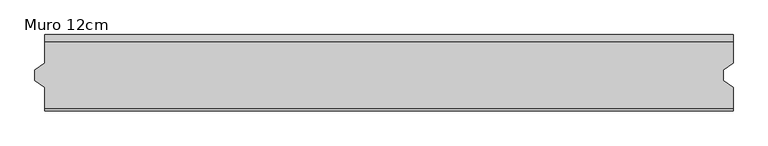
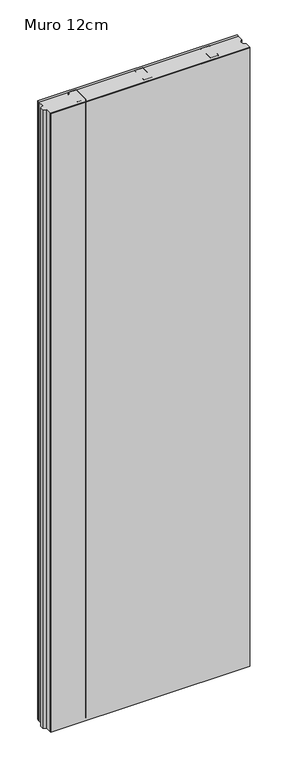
"""IFC4 building model written with IfcOpenShell, lengths in millimetres: plate geometry, Steelfoam Exterior : Muro 12cm."""

from ifc_helpers import new_model, si_unit, point, frame_2d, origin, origin_with_axes, place, context, project, spatial, polyline, circle_curve, trimmed, segment, composite_curve, outline, extrude, source, transform, mapped, element, save


def muro_12cm_a0bc951b(model_context):
    return source(origin(), model_context, "Body", "SweptSolid", [
        extrude(outline(polyline([(610.0, 0.0), (-610.0, 0.0), (-610.0, 12.0), (610.0, 12.0), (610.0, 0.0)])), origin_with_axes(), (0.0, 0.0, 1.0), 4000.0),
        extrude(outline(polyline([(610.0, -120.0), (610.0, -123.0), (-610.0, -123.0), (-610.0, -120.0), (610.0, -120.0)])), origin_with_axes(), (0.0, 0.0, 1.0), 4000.0),
        extrude(outline(polyline([(610.0, -120.0), (-610.0, -120.0), (-610.0, -81.6434349), (-627.6333408, -69.2964367), (-627.6333408, -50.7035633), (-610.0, -38.3565651), (-610.0, 0.0), (-432.4225297, 0.0), (-432.4225297, -0.8), (-381.6225297, -0.8), (-381.6225297, 0.0), (-26.4150776, 0.0), (-26.4150776, -0.8), (24.3849224, -0.8), (24.3849224, 0.0), (379.6603819, 0.0), (379.6603819, -0.8), (430.4603819, -0.8), (430.4603819, 0.0), (610.0, 0.0), (610.0, -38.3565651), (592.3666592, -50.7035633), (592.3666592, -69.2964367), (610.0, -81.6434349), (610.0, -120.0)])), origin_with_axes(), (0.0, 0.0, 1.0), 4000.0),
        extrude(outline(composite_curve([segment(trimmed(circle_curve(frame_2d((428.4603819, -99.6)), 2.0), [point((430.4603819, -99.6))], [point((428.4603819, -101.6))], False, "CARTESIAN"), True, "CONTINUOUS"), segment(polyline([(428.4603819, -101.6), (381.6603819, -101.6)]), True, "CONTINUOUS"), segment(trimmed(circle_curve(frame_2d((381.6603819, -99.6)), 2.0), [point((381.6603819, -101.6))], [point((379.6603819, -99.6))], False, "CARTESIAN"), True, "CONTINUOUS"), segment(polyline([(379.6603819, -99.6), (379.6603819, -2.0)]), True, "CONTINUOUS"), segment(trimmed(circle_curve(frame_2d((381.6603819, -2.0)), 2.0), [point((379.6603819, -2.0))], [point((381.6603819, 0.0))], False, "CARTESIAN"), True, "CONTINUOUS"), segment(polyline([(381.6603819, 0.0), (428.4603819, 0.0)]), True, "CONTINUOUS"), segment(trimmed(circle_curve(frame_2d((428.4603819, -2.0)), 2.0), [point((428.4603819, 0.0))], [point((430.4603819, -2.0))], False, "CARTESIAN"), True, "CONTINUOUS"), segment(polyline([(430.4603819, -2.0), (430.4603819, -15.0), (429.6603819, -15.0), (429.6603819, -2.0)]), True, "CONTINUOUS"), segment(trimmed(circle_curve(frame_2d((428.3603819, -2.0)), 1.3), [point((429.6603819, -2.0))], [point((428.3603819, -0.7))], True, "CARTESIAN"), True, "CONTINUOUS"), segment(polyline([(428.3603819, -0.7), (381.6603819, -0.7)]), True, "CONTINUOUS"), segment(trimmed(circle_curve(frame_2d((381.6603819, -2.0)), 1.3), [point((381.6603819, -0.7))], [point((380.3603819, -2.0))], True, "CARTESIAN"), True, "CONTINUOUS"), segment(polyline([(380.3603819, -2.0), (380.3603819, -99.6)]), True, "CONTINUOUS"), segment(trimmed(circle_curve(frame_2d((381.6603819, -99.6)), 1.3), [point((380.3603819, -99.6))], [point((381.6603819, -100.9))], True, "CARTESIAN"), True, "CONTINUOUS"), segment(polyline([(381.6603819, -100.9), (428.3603819, -100.9)]), True, "CONTINUOUS"), segment(trimmed(circle_curve(frame_2d((428.3603819, -99.6)), 1.3), [point((428.3603819, -100.9))], [point((429.6603819, -99.6))], True, "CARTESIAN"), True, "CONTINUOUS"), segment(polyline([(429.6603819, -99.6), (429.6603819, -86.6), (430.4603819, -86.6), (430.4603819, -99.6)]), True, "CONTINUOUS")], self_intersect=False)), origin_with_axes(), (0.0, 0.0, 1.0), 4000.0),
        extrude(outline(composite_curve([segment(polyline([(-26.4150776, -99.6), (-26.4150776, -86.6), (-25.6150776, -86.6), (-25.6150776, -99.6)]), True, "CONTINUOUS"), segment(trimmed(circle_curve(frame_2d((-24.3150776, -99.6)), 1.3), [point((-25.6150776, -99.6))], [point((-24.3150776, -100.9))], True, "CARTESIAN"), True, "CONTINUOUS"), segment(polyline([(-24.3150776, -100.9), (22.3849224, -100.9)]), True, "CONTINUOUS"), segment(trimmed(circle_curve(frame_2d((22.3849224, -99.6)), 1.3), [point((22.3849224, -100.9))], [point((23.6849224, -99.6))], True, "CARTESIAN"), True, "CONTINUOUS"), segment(polyline([(23.6849224, -99.6), (23.6849224, -2.0)]), True, "CONTINUOUS"), segment(trimmed(circle_curve(frame_2d((22.3849224, -2.0)), 1.3), [point((23.6849224, -2.0))], [point((22.3849224, -0.7))], True, "CARTESIAN"), True, "CONTINUOUS"), segment(polyline([(22.3849224, -0.7), (-24.3150776, -0.7)]), True, "CONTINUOUS"), segment(trimmed(circle_curve(frame_2d((-24.3150776, -2.0)), 1.3), [point((-24.3150776, -0.7))], [point((-25.6150776, -2.0))], True, "CARTESIAN"), True, "CONTINUOUS"), segment(polyline([(-25.6150776, -2.0), (-25.6150776, -15.0), (-26.4150776, -15.0), (-26.4150776, -2.0)]), True, "CONTINUOUS"), segment(trimmed(circle_curve(frame_2d((-24.4150776, -2.0)), 2.0), [point((-26.4150776, -2.0))], [point((-24.4150776, 0.0))], False, "CARTESIAN"), True, "CONTINUOUS"), segment(polyline([(-24.4150776, 0.0), (22.3849224, 0.0)]), True, "CONTINUOUS"), segment(trimmed(circle_curve(frame_2d((22.3849224, -2.0)), 2.0), [point((22.3849224, 0.0))], [point((24.3849224, -2.0))], False, "CARTESIAN"), True, "CONTINUOUS"), segment(polyline([(24.3849224, -2.0), (24.3849224, -99.6)]), True, "CONTINUOUS"), segment(trimmed(circle_curve(frame_2d((22.3849224, -99.6)), 2.0), [point((24.3849224, -99.6))], [point((22.3849224, -101.6))], False, "CARTESIAN"), True, "CONTINUOUS"), segment(polyline([(22.3849224, -101.6), (-24.4150776, -101.6)]), True, "CONTINUOUS"), segment(trimmed(circle_curve(frame_2d((-24.4150776, -99.6)), 2.0), [point((-24.4150776, -101.6))], [point((-26.4150776, -99.6))], False, "CARTESIAN"), True, "CONTINUOUS")], self_intersect=False)), origin_with_axes(), (0.0, 0.0, 1.0), 4000.0),
        extrude(outline(composite_curve([segment(polyline([(-432.4225297, -99.6), (-432.4225297, -86.6), (-431.6225297, -86.6), (-431.6225297, -99.6)]), True, "CONTINUOUS"), segment(trimmed(circle_curve(frame_2d((-430.3225297, -99.6)), 1.3), [point((-431.6225297, -99.6))], [point((-430.3225297, -100.9))], True, "CARTESIAN"), True, "CONTINUOUS"), segment(polyline([(-430.3225297, -100.9), (-383.6225297, -100.9)]), True, "CONTINUOUS"), segment(trimmed(circle_curve(frame_2d((-383.6225297, -99.6)), 1.3), [point((-383.6225297, -100.9))], [point((-382.3225297, -99.6))], True, "CARTESIAN"), True, "CONTINUOUS"), segment(polyline([(-382.3225297, -99.6), (-382.3225297, -2.0)]), True, "CONTINUOUS"), segment(trimmed(circle_curve(frame_2d((-383.6225297, -2.0)), 1.3), [point((-382.3225297, -2.0))], [point((-383.6225297, -0.7))], True, "CARTESIAN"), True, "CONTINUOUS"), segment(polyline([(-383.6225297, -0.7), (-430.3225297, -0.7)]), True, "CONTINUOUS"), segment(trimmed(circle_curve(frame_2d((-430.3225297, -2.0)), 1.3), [point((-430.3225297, -0.7))], [point((-431.6225297, -2.0))], True, "CARTESIAN"), True, "CONTINUOUS"), segment(polyline([(-431.6225297, -2.0), (-431.6225297, -15.0), (-432.4225297, -15.0), (-432.4225297, -2.0)]), True, "CONTINUOUS"), segment(trimmed(circle_curve(frame_2d((-430.4225297, -2.0)), 2.0), [point((-432.4225297, -2.0))], [point((-430.4225297, 0.0))], False, "CARTESIAN"), True, "CONTINUOUS"), segment(polyline([(-430.4225297, 0.0), (-383.6225297, 0.0)]), True, "CONTINUOUS"), segment(trimmed(circle_curve(frame_2d((-383.6225297, -2.0)), 2.0), [point((-383.6225297, 0.0))], [point((-381.6225297, -2.0))], False, "CARTESIAN"), True, "CONTINUOUS"), segment(polyline([(-381.6225297, -2.0), (-381.6225297, -99.6)]), True, "CONTINUOUS"), segment(trimmed(circle_curve(frame_2d((-383.6225297, -99.6)), 2.0), [point((-381.6225297, -99.6))], [point((-383.6225297, -101.6))], False, "CARTESIAN"), True, "CONTINUOUS"), segment(polyline([(-383.6225297, -101.6), (-430.4225297, -101.6)]), True, "CONTINUOUS"), segment(trimmed(circle_curve(frame_2d((-430.4225297, -99.6)), 2.0), [point((-430.4225297, -101.6))], [point((-432.4225297, -99.6))], False, "CARTESIAN"), True, "CONTINUOUS")], self_intersect=False)), origin_with_axes(), (0.0, 0.0, 1.0), 4000.0),
    ])


if __name__ == "__main__":
    model = new_model("IFC4")
    model_context = context("Model", 3, world=origin())
    ifc_project = project(units=[si_unit("LENGTHUNIT", "METRE", prefix="MILLI")], contexts=[model_context])
    site = spatial("IfcSite", under=ifc_project)
    building = spatial("IfcBuilding", under=site)
    placement = place(None, origin())
    muro_12cm_shape = muro_12cm_a0bc951b(model_context)
    element("IfcPlate", 1, ObjectType="Steelfoam Exterior : Muro 12cm", at=placement, inside=building, context=model_context, shape_type="MappedRepresentation", body=[
        mapped(muro_12cm_shape, transform((0.0, 0.0, 0.0), x_axis=(1.0, 0.0, 0.0), y_axis=(0.0, 1.0, 0.0), z_axis=(0.0, 0.0, 1.0))),
    ])
    save(model, "model.ifc")
